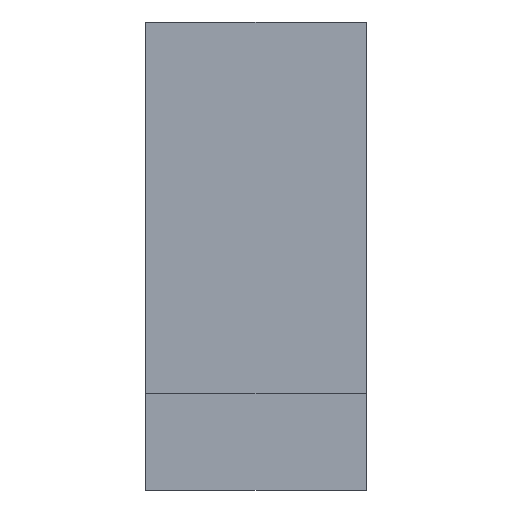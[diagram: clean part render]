
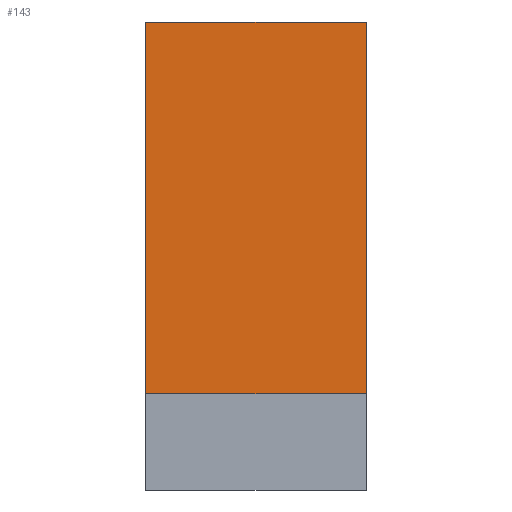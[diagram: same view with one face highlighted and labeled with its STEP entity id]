
A CAD part, left-side view. The second image highlights one B-rep face of the part: STEP entity #143.
In plain terms, the highlighted planar face has unit normal (-1, 0, 0).
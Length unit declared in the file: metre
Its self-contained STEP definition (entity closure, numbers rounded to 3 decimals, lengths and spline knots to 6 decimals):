
#34=ORIENTED_EDGE('',*,*,#62,.F.);
#35=ORIENTED_EDGE('',*,*,#63,.T.);
#36=ORIENTED_EDGE('',*,*,#64,.T.);
#37=ORIENTED_EDGE('',*,*,#51,.F.);
#51=EDGE_CURVE('',#69,#70,#81,.T.);
#62=EDGE_CURVE('',#76,#69,#92,.T.);
#63=EDGE_CURVE('',#76,#77,#93,.T.);
#64=EDGE_CURVE('',#77,#70,#94,.T.);
#69=VERTEX_POINT('',#211);
#70=VERTEX_POINT('',#213);
#76=VERTEX_POINT('',#233);
#77=VERTEX_POINT('',#237);
#81=LINE('',#212,#99);
#92=LINE('',#234,#110);
#93=LINE('',#236,#111);
#94=LINE('',#238,#112);
#99=VECTOR('',#174,1.);
#110=VECTOR('',#193,1.);
#111=VECTOR('',#196,1.);
#112=VECTOR('',#197,1.);
#119=EDGE_LOOP('',(#34,#35,#36,#37));
#127=FACE_BOUND('',#119,.T.);
#135=PLANE('',#164);
#143=ADVANCED_FACE('',(#127),#135,.T.);
#164=AXIS2_PLACEMENT_3D('',#235,#194,#195);
#174=DIRECTION('',(0.,0.,-1.));
#193=DIRECTION('',(0.,-1.,0.));
#194=DIRECTION('',(-1.,0.,0.));
#195=DIRECTION('',(0.,0.,-1.));
#196=DIRECTION('',(0.,0.,-1.));
#197=DIRECTION('',(0.,-1.,0.));
#211=CARTESIAN_POINT('',(0.138362,-0.10468,0.003295));
#212=CARTESIAN_POINT('',(0.138362,-0.10468,0.00262));
#213=CARTESIAN_POINT('',(0.138362,-0.10468,0.001945));
#233=CARTESIAN_POINT('',(0.138362,-0.10388,0.003295));
#234=CARTESIAN_POINT('',(0.138362,-0.10428,0.003295));
#235=CARTESIAN_POINT('',(0.138362,-0.09388,0.003295));
#236=CARTESIAN_POINT('',(0.138362,-0.10388,0.00262));
#237=CARTESIAN_POINT('',(0.138362,-0.10388,0.001945));
#238=CARTESIAN_POINT('',(0.138362,-0.10428,0.001945));
